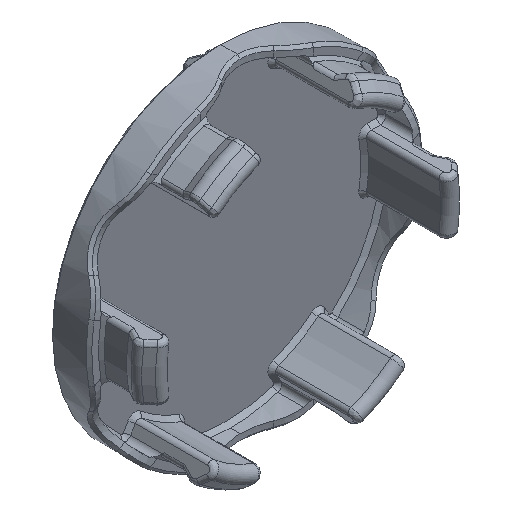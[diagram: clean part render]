
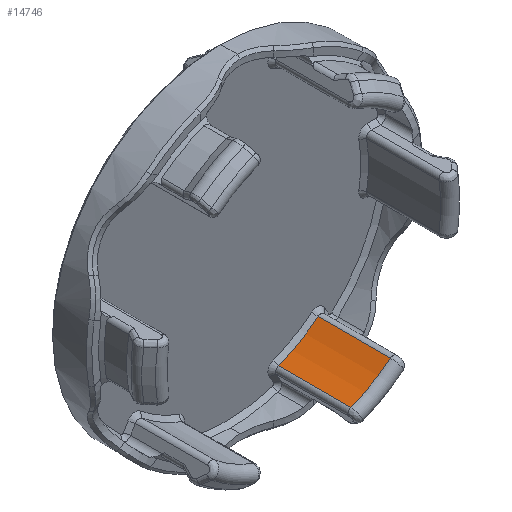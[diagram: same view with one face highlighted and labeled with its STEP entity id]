
A CAD part, isometric view. The second image highlights one B-rep face of the part: STEP entity #14746.
In plain terms, the highlighted cylindrical face has radius 24.75 mm (diameter 49.5 mm), a partial arc.
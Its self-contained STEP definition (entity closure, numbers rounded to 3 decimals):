
#9097=CARTESIAN_POINT('Vertex',(15.73,-15.107,-19.108)) ;
#9100=CARTESIAN_POINT('Axis2P3D Location',(0.,-15.107,0.)) ;
#9104=CARTESIAN_POINT('Vertex',(8.683,-15.107,-23.177)) ;
#14716=CARTESIAN_POINT('Axis2P3D Location',(0.,-11.75,0.)) ;
#14721=CARTESIAN_POINT('Axis2P3D Location',(0.,-2.2,0.)) ;
#14725=CARTESIAN_POINT('Vertex',(8.683,-2.2,-23.177)) ;
#14727=CARTESIAN_POINT('Vertex',(15.73,-2.2,-19.108)) ;
#14730=CARTESIAN_POINT('Line Origine',(8.683,-11.75,-23.177)) ;
#14735=CARTESIAN_POINT('Line Origine',(15.73,-11.75,-19.108)) ;
#9101=DIRECTION('Axis2P3D Direction',(0.,1.,0.)) ;
#14717=DIRECTION('Axis2P3D Direction',(0.,1.,0.)) ;
#14718=DIRECTION('Axis2P3D XDirection',(0.866,-0.,0.5)) ;
#14722=DIRECTION('Axis2P3D Direction',(0.,1.,0.)) ;
#14731=DIRECTION('Vector Direction',(0.,1.,0.)) ;
#14736=DIRECTION('Vector Direction',(0.,1.,0.)) ;
#9102=AXIS2_PLACEMENT_3D('Circle Axis2P3D',#9100,#9101,$) ;
#14719=AXIS2_PLACEMENT_3D('Cylinder Axis2P3D',#14716,#14717,#14718) ;
#14723=AXIS2_PLACEMENT_3D('Circle Axis2P3D',#14721,#14722,$) ;
#14741=ORIENTED_EDGE('',*,*,#14729,.F.) ;
#14742=ORIENTED_EDGE('',*,*,#14734,.F.) ;
#14743=ORIENTED_EDGE('',*,*,#9106,.F.) ;
#14744=ORIENTED_EDGE('',*,*,#14739,.T.) ;
#14732=VECTOR('Line Direction',#14731,1.) ;
#14737=VECTOR('Line Direction',#14736,1.) ;
#14746=ADVANCED_FACE('Base',(#14745),#14720,.F.) ;
#9103=CIRCLE('generated circle',#9102,24.75) ;
#14724=CIRCLE('generated circle',#14723,24.75) ;
#14720=CYLINDRICAL_SURFACE('generated cylinder',#14719,24.75) ;
#9106=EDGE_CURVE('',#9098,#9105,#9103,.T.) ;
#14729=EDGE_CURVE('',#14726,#14728,#14724,.F.) ;
#14734=EDGE_CURVE('',#9105,#14726,#14733,.T.) ;
#14739=EDGE_CURVE('',#9098,#14728,#14738,.T.) ;
#14740=EDGE_LOOP('',(#14741,#14742,#14743,#14744)) ;
#14745=FACE_OUTER_BOUND('',#14740,.T.) ;
#14733=LINE('Line',#14730,#14732) ;
#14738=LINE('Line',#14735,#14737) ;
#9098=VERTEX_POINT('',#9097) ;
#9105=VERTEX_POINT('',#9104) ;
#14726=VERTEX_POINT('',#14725) ;
#14728=VERTEX_POINT('',#14727) ;
